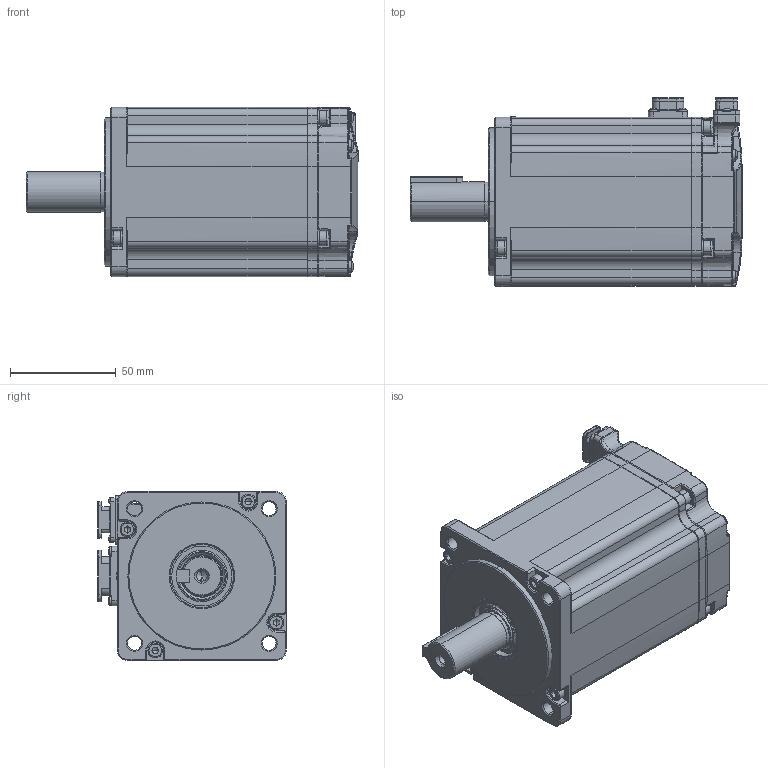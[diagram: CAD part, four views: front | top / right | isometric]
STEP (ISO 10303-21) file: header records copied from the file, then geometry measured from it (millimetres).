
FILE_DESCRIPTION (( 'STEP AP203' ), '1' );
FILE_NAME ('EM3J-10ALA223.STEP', '2022-10-27T09:24:24', ( 'USER' ), ( '' ), 'SwSTEP 2.0', 'SolidWorks 2018', '' );
FILE_SCHEMA (( 'CONFIG_CONTROL_DESIGN' ));
Products named in the file (1): EM3J-10ALA223
Bounding box: 157 x 89.3 x 80 mm (x, y, z)
Volume: 652628.1 mm3; surface area: 119847.9 mm2
Topology: 16 solids, 23 shells, 2857 faces, 7420 edges, 4673 vertices
Faces by surface type: plane 1384, cylinder 827, cone 261, torus 215, bspline 129, sphere 41
Entity records: 96378 total; most frequent: CARTESIAN_POINT 26442, ORIENTED_EDGE 14756, DIRECTION 14640, EDGE_CURVE 7378, AXIS2_PLACEMENT_3D 5241, VERTEX_POINT 4673, LINE 4158, VECTOR 4158
